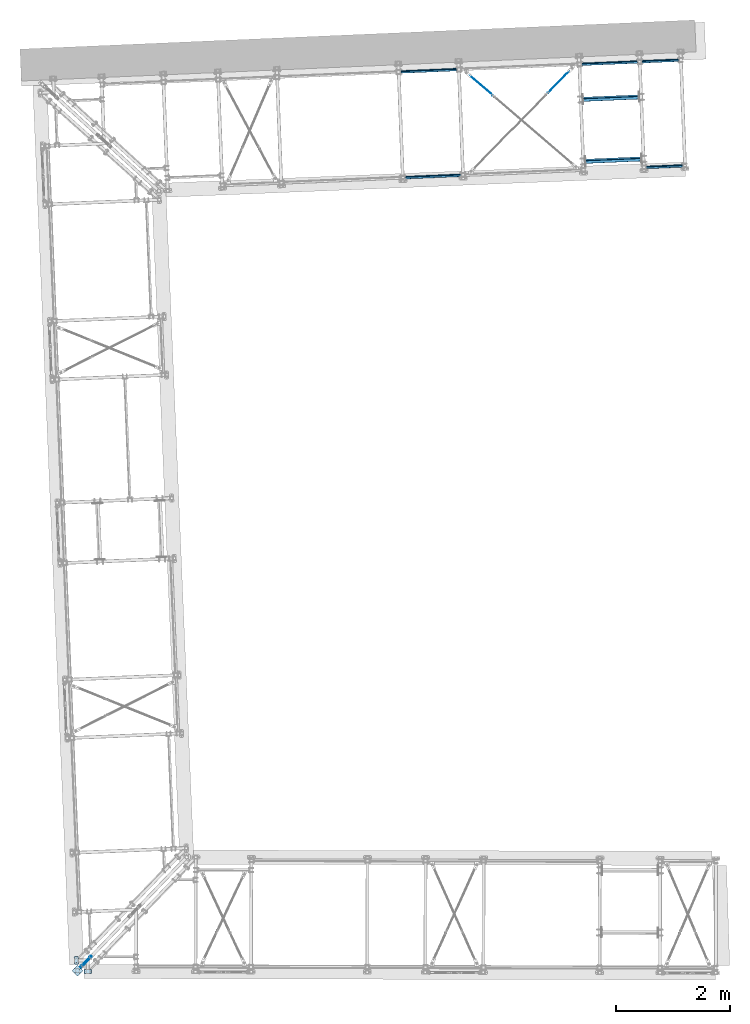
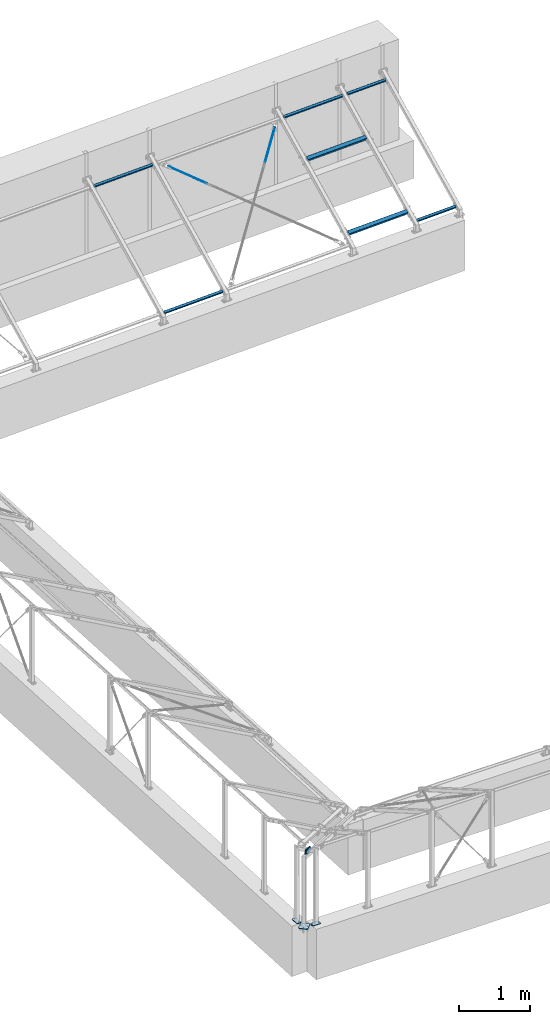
# One storey, part 22 of 288: 9 members, 6 plates, 32 openings.
"""IFC2X3 building model written with IfcOpenShell, lengths in millimetres."""

import ifcopenshell
import ifcopenshell.guid

model = None  # the IFC model being written
_history = None  # IfcOwnerHistory: only IFC2X3 demands one
_inside = {}  # id of a spatial element -> (the spatial element, [elements in it])
_under = {}  # id of a project, library or spatial element -> (it, [spatial elements below it])
_declared = {}  # id of a project -> (the project, [libraries it declares])
_typed = {}  # id of a type object -> (the type object, [elements of that type])
_made_of = {}  # id of a material, layer set ... -> (it, [elements and type objects made of it])


def new_model(schema):
    """Start an empty IFC model of exactly this schema.

    Asked for "IFC4X3", IfcOpenShell would pick the latest addendum, in which some entities
    have other attributes; the version numbers below select the first issue.
    IFC2X3 requires an IfcOwnerHistory on every rooted entity: one is made here for all.
    """
    global model, _history
    if schema == "IFC4X3":
        model = ifcopenshell.file(schema_version=(4, 3, 0, 0))
    else:
        model = ifcopenshell.file(schema=schema)
    _inside.clear()
    _under.clear()
    _declared.clear()
    _typed.clear()
    _made_of.clear()
    _history = None
    if model.schema == "IFC2X3":
        org = make("IfcOrganization", Name="unknown")
        user = make(
            "IfcPersonAndOrganization",
            ThePerson=make("IfcPerson", FamilyName="unknown"),
            TheOrganization=org,
        )
        app = make(
            "IfcApplication",
            ApplicationDeveloper=org,
            Version="unknown",
            ApplicationFullName="unknown",
            ApplicationIdentifier="unknown",
        )
        _history = make(
            "IfcOwnerHistory",
            OwningUser=user,
            OwningApplication=app,
            ChangeAction="ADDED",
            CreationDate=0,
        )
    return model


def make(cls, **values):
    """One entity of the class cls with the attributes given. An attribute that is None is left unset."""
    return model.create_entity(
        cls, **{name: value for name, value in values.items() if value is not None}
    )


def entity(cls, *values):
    """Any entity or typed value of the class cls, its attributes in the order of the schema. None: left unset."""
    e = model.create_entity(cls)
    for i, value in enumerate(values):
        if value is not None:
            e[i] = value
    return e


def rooted(cls, **values):
    """An entity with a GlobalId (a new one), such as an element, a storey or a relation."""
    return make(cls, GlobalId=ifcopenshell.guid.new(), OwnerHistory=_history, **values)


def si_unit(unit_type, name, prefix=None):
    """IfcSIUnit, for example si_unit("LENGTHUNIT", "METRE", prefix="MILLI")."""
    return make("IfcSIUnit", UnitType=unit_type, Prefix=prefix, Name=name)


def converted_unit(unit_type, name, factor, base, dimensions=None, offset=None):
    """IfcConversionBasedUnit, such as the inch: factor (a typed value) times the base unit."""
    return make(
        "IfcConversionBasedUnit"
        if offset is None
        else "IfcConversionBasedUnitWithOffset",
        ConversionOffset=offset,
        Dimensions=None
        if dimensions is None
        else entity("IfcDimensionalExponents", *dimensions),
        UnitType=unit_type,
        Name=name,
        ConversionFactor=make(
            "IfcMeasureWithUnit", ValueComponent=factor, UnitComponent=base
        ),
    )


def assignment(units):
    """IfcUnitAssignment: the units of a project."""
    return None if units is None else make("IfcUnitAssignment", Units=units)


def point(xyz):
    """IfcCartesianPoint."""
    return None if xyz is None else make("IfcCartesianPoint", Coordinates=xyz)


def direction(xyz):
    """IfcDirection."""
    return None if xyz is None else make("IfcDirection", DirectionRatios=xyz)


def frame(location, z_axis=None, x_axis=None):
    """IfcAxis2Placement3D, a coordinate frame: its origin and axes. An axis left out is left unset."""
    return make(
        "IfcAxis2Placement3D",
        Location=point(location),
        Axis=direction(z_axis),
        RefDirection=direction(x_axis),
    )


def frame_2d(location, x_axis=None):
    """IfcAxis2Placement2D, a coordinate frame in the plane: its origin and x axis."""
    return make(
        "IfcAxis2Placement2D", Location=point(location), RefDirection=direction(x_axis)
    )


def origin():
    """The frame at (0, 0, 0) with its axes left unset."""
    return frame((0.0, 0.0, 0.0))


def origin_with_axes():
    """The frame at (0, 0, 0) with the z axis (0, 0, 1) and the x axis (1, 0, 0) written out."""
    return frame((0.0, 0.0, 0.0), z_axis=(0.0, 0.0, 1.0), x_axis=(1.0, 0.0, 0.0))


def origin_2d():
    """The frame at (0, 0) in the plane with its x axis left unset."""
    return frame_2d((0.0, 0.0))


def origin_2d_with_axis():
    """The frame at (0, 0) in the plane with the x axis (1, 0) written out."""
    return frame_2d((0.0, 0.0), x_axis=(1.0, 0.0))


def place(relative_to, where):
    """IfcLocalPlacement: puts the frame where relative to a parent placement (None: the world)."""
    return make(
        "IfcLocalPlacement", PlacementRelTo=relative_to, RelativePlacement=where
    )


def context(
    kind, dimensions, precision=None, world=None, true_north=None, identifier=None
):
    """IfcGeometricRepresentationContext, for example the 3D "Model" context."""
    return make(
        "IfcGeometricRepresentationContext",
        ContextIdentifier=identifier,
        ContextType=kind,
        CoordinateSpaceDimension=dimensions,
        Precision=precision,
        WorldCoordinateSystem=world,
        TrueNorth=true_north,
    )


def project(units=None, contexts=None):
    """IfcProject with its units and contexts."""
    return rooted(
        "IfcProject",
        Name="project",
        RepresentationContexts=contexts,
        UnitsInContext=assignment(units),
    )


def spatial(cls, under=None, at=None, **own):
    """A site, building, storey or space (cls), placed at a placement, below another one or the project."""
    s = rooted(cls, ObjectPlacement=at, **own)
    if under is not None:
        _under.setdefault(under.id(), (under, []))[1].append(s)
    return s


def polyline(points):
    """IfcPolyline through the points."""
    return make("IfcPolyline", Points=[point(p) for p in points])


def circle_curve(where, radius):
    """IfcCircle in the frame where."""
    return make("IfcCircle", Position=where, Radius=radius)


def line_curve(start, along, magnitude):
    """IfcLine from a point along a vector."""
    return make(
        "IfcLine",
        Pnt=point(start),
        Dir=make("IfcVector", Orientation=direction(along), Magnitude=magnitude),
    )


def trimmed(basis, trim1, trim2, sense, master):
    """IfcTrimmedCurve: the piece of a basis curve between two trims."""
    return make(
        "IfcTrimmedCurve",
        BasisCurve=basis,
        Trim1=trim1,
        Trim2=trim2,
        SenseAgreement=sense,
        MasterRepresentation=master,
    )


def segment(curve, same_sense, transition):
    """IfcCompositeCurveSegment."""
    return make(
        "IfcCompositeCurveSegment",
        Transition=transition,
        SameSense=same_sense,
        ParentCurve=curve,
    )


def composite_curve(segments, self_intersect=None):
    """IfcCompositeCurve: segments joined end to end."""
    return make("IfcCompositeCurve", Segments=segments, SelfIntersect=self_intersect)


def profile(cls, at=None, kind="AREA", **sizes):
    """A parametric profile (cls). Its sizes go by their IFC names, for example OverallWidth=200.0."""
    return make(cls, ProfileType=kind, Position=at, **sizes)


def hollow_rectangle(**sizes):
    """IfcRectangleHollowProfileDef."""
    return profile("IfcRectangleHollowProfileDef", **sizes)


def circle(**sizes):
    """IfcCircleProfileDef."""
    return profile("IfcCircleProfileDef", **sizes)


def outline(outer, holes=None, kind="AREA"):
    """IfcArbitraryClosedProfileDef: a profile drawn as a closed curve; with holes, ...WithVoids."""
    if holes is None:
        return make("IfcArbitraryClosedProfileDef", ProfileType=kind, OuterCurve=outer)
    return make(
        "IfcArbitraryProfileDefWithVoids",
        ProfileType=kind,
        OuterCurve=outer,
        InnerCurves=holes,
    )


def extrude(swept, where, along, depth):
    """IfcExtrudedAreaSolid: the profile swept, set in the frame where, extruded along a direction by depth."""
    return make(
        "IfcExtrudedAreaSolid",
        SweptArea=swept,
        Position=where,
        ExtrudedDirection=direction(along),
        Depth=depth,
    )


def clip(a, b, op="DIFFERENCE"):
    """IfcBooleanClippingResult: the solid a cut by the half space b."""
    return make(
        "IfcBooleanClippingResult", Operator=op, FirstOperand=a, SecondOperand=b
    )


def halfspace(plane, agree):
    """IfcHalfSpaceSolid: all space on one side of the plane z = 0 of the frame plane."""
    return make(
        "IfcHalfSpaceSolid",
        BaseSurface=make("IfcPlane", Position=plane),
        AgreementFlag=agree,
    )


def shape(context_of_items, identifier, shape_type, items):
    """IfcShapeRepresentation: the items that make up one representation, for example the "Body"."""
    return make(
        "IfcShapeRepresentation",
        ContextOfItems=context_of_items,
        RepresentationIdentifier=identifier,
        RepresentationType=shape_type,
        Items=items,
    )


def material(Name=None, Category=None):
    """IfcMaterial."""
    return make("IfcMaterial", Name=Name, Category=Category)


def layer(
    of_material, thickness, ventilated=None, Name=None, Category=None, Priority=None
):
    """IfcMaterialLayer: one layer of a wall or slab, of a material (None: an air gap)."""
    return make(
        "IfcMaterialLayer",
        Material=of_material,
        LayerThickness=thickness,
        IsVentilated=ventilated,
        Name=Name,
        Category=Category,
        Priority=Priority,
    )


def layer_set(layers, Name=None):
    """IfcMaterialLayerSet."""
    return make("IfcMaterialLayerSet", MaterialLayers=layers, LayerSetName=Name)


def made_of(thing, what):
    """Note that an element or type object is made of a material, layer set ...; save() writes the relation."""
    if what is not None:
        _made_of.setdefault(what.id(), (what, []))[1].append(thing)
    return thing


def element(
    cls,
    number,
    at=None,
    inside=None,
    cuts=None,
    type_object=None,
    material=None,
    context=None,
    identifier="Body",
    shape_type=None,
    held_by="IfcProductDefinitionShape",
    body=None,
    shapes=None,
    **own,
):
    """One element of the class cls, such as IfcWall. Its Tag is "e" and its number.

    at: its placement. inside: the storey or other place that contains it. cuts: it is an
    opening in that element (IfcRelVoidsElement). A single representation is given by context,
    identifier, shape_type and body (its items); several are given by shapes. held_by: the class
    of the entity that holds the representations. save() writes the other relations.
    """
    e = rooted(cls, Tag="e%d" % number, ObjectPlacement=at, **own)
    if body is not None:
        shapes = [shape(context, identifier, shape_type, body)]
    if shapes is not None:
        e.Representation = make(held_by, Representations=shapes)
    if inside is not None:
        _inside.setdefault(inside.id(), (inside, []))[1].append(e)
    if cuts is not None:
        rooted(
            "IfcRelVoidsElement", RelatingBuildingElement=cuts, RelatedOpeningElement=e
        )
    if type_object is not None:
        _typed.setdefault(type_object.id(), (type_object, []))[1].append(e)
    return made_of(e, material)


def aggregate(whole, parts):
    """IfcRelAggregates: a whole, such as a stair, and the parts it consists of."""
    return rooted("IfcRelAggregates", RelatingObject=whole, RelatedObjects=parts)


def save(model, path):
    """Write the relations noted so far, then the file.

    IfcRelAggregates (storeys below a building ...), IfcRelContainedInSpatialStructure (elements
    in a storey), IfcRelDefinesByType, IfcRelAssociatesMaterial and IfcRelDeclares: one each for
    every whole, place, type object, material and project.
    """
    for whole, parts in _under.values():
        aggregate(whole, parts)
    for where, things in _inside.values():
        rooted(
            "IfcRelContainedInSpatialStructure",
            RelatedElements=things,
            RelatingStructure=where,
        )
    for kind, things in _typed.values():
        rooted("IfcRelDefinesByType", RelatedObjects=things, RelatingType=kind)
    for what, things in _made_of.values():
        rooted("IfcRelAssociatesMaterial", RelatedObjects=things, RelatingMaterial=what)
    for by, libraries in _declared.values():
        rooted("IfcRelDeclares", RelatingContext=by, RelatedDefinitions=libraries)
    model.write(path)


model = new_model("IFC2X3")

# Units and contexts
model_context = context("Model", 3, precision=1e-09, world=origin_with_axes())
ifc_project = project(units=[si_unit("LENGTHUNIT", "METRE", prefix="MILLI"), si_unit("AREAUNIT", "SQUARE_METRE"), si_unit("VOLUMEUNIT", "CUBIC_METRE"), converted_unit("PLANEANGLEUNIT", "DEGREE", entity("IfcPlaneAngleMeasure", 0.01745329), si_unit("PLANEANGLEUNIT", "RADIAN"), dimensions=[0, 0, 0, 0, 0, 0, 0])], contexts=[model_context])

# Site, building, storey
site_placement = place(None, origin_with_axes())
site = spatial("IfcSite", under=ifc_project, at=site_placement, Name="Remont ?wietlik?w nad MC w NCPP w Opolu", CompositionType="ELEMENT")
building_placement = place(site_placement, origin_with_axes())
building = spatial("IfcBuilding", under=site, at=building_placement, Name="Konstrukcja 1", CompositionType="ELEMENT")
storey_placement = place(building_placement, origin_with_axes())
storey = spatial("IfcBuildingStorey", under=building, at=storey_placement, Name="Default Storey", CompositionType="ELEMENT", Elevation=0.0)

# Members
ifc_material_1 = material(Name="S235")
member_1_placement = place(None, frame((6619.907638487, 13850.49178117, 139.594904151), z_axis=(0.999102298, 0.042361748, -0.000284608), x_axis=(-0.036464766, 0.86340262, 0.503196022)))
element("IfcMember", 1, at=member_1_placement, inside=storey, material=ifc_material_1, Name="TubeBracing", ObjectType="TubeBracing", context=model_context, shape_type="SweptSolid", body=[
    extrude(hollow_rectangle(XDim=40.0, YDim=40.0, WallThickness=3.0, InnerFilletRadius=3.0, OuterFilletRadius=6.0, at=origin_2d()), origin(), (0.0, 0.0, -1.0), 979.588389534),
])
member_2_placement = place(None, frame((10584.092730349, 14018.572479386, 138.465652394), z_axis=(0.999102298, 0.042361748, -0.000284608), x_axis=(-0.036464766, 0.86340262, 0.503196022)))
element("IfcMember", 2, at=member_2_placement, inside=storey, material=ifc_material_1, Name="TubeBracing", ObjectType="TubeBracing", context=model_context, shape_type="Clipping", body=[
    clip(extrude(hollow_rectangle(XDim=40.0, YDim=40.0, WallThickness=3.0, InnerFilletRadius=3.0, OuterFilletRadius=6.0, at=origin_2d()), origin(), (0.0, 0.0, -1.0), 712.419778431), halfspace(frame((-11814.216524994, 6718.996986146, -107.6257055), z_axis=(0.002424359, -0.001741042, -0.999995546), x_axis=(-0.864168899, 0.50319309, -0.002971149)), True)),
])
for number, where, z_axis, x_axis, name in (
    (3, (9745.49976522, 15223.402642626, 862.544823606), (0.999102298, 0.042361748, -0.000284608), (-0.036464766, 0.86340262, 0.503196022), "TubeBracing"),
    (4, (9788.538517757, 14135.397692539, 228.516061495), (0.999102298, 0.042361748, -0.000284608), (-0.036464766, 0.86340262, 0.503196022), "TubeBracing"),
):
    element("IfcMember", number, at=place(None, frame(where, z_axis=z_axis, x_axis=x_axis)), inside=storey, material=ifc_material_1, Name=name, ObjectType="TubeBracing", context=model_context, shape_type="SweptSolid", body=[
        extrude(hollow_rectangle(XDim=60.0, YDim=60.0, WallThickness=3.0, InnerFilletRadius=3.0, OuterFilletRadius=6.0, at=origin_2d()), origin(), (0.0, 0.0, -1.0), 981.999809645),
    ])
member_3_placement = place(None, frame((10510.976387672, 15873.428619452, 1221.602923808), z_axis=(0.999102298, 0.042361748, -0.000284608), x_axis=(-0.036464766, 0.86340262, 0.503196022)))
element("IfcMember", 5, at=member_3_placement, inside=storey, material=ifc_material_1, Name="TubeBracing", ObjectType="TubeBracing", context=model_context, shape_type="Clipping", body=[
    clip(extrude(hollow_rectangle(XDim=40.0, YDim=40.0, WallThickness=3.0, InnerFilletRadius=3.0, OuterFilletRadius=6.0, at=origin_2d()), origin(), (0.0, 0.0, -1.0), 712.419778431), halfspace(frame((-13963.400734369, 6717.055464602, -112.832741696), z_axis=(0.002424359, -0.001741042, -0.999995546), x_axis=(-0.864168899, 0.50319309, -0.002971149)), True)),
])
member_4_placement = place(None, frame((9721.266170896, 15839.945055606, 1221.827883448), z_axis=(0.999102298, 0.042361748, -0.000284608), x_axis=(-0.036464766, 0.86340262, 0.503196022)))
element("IfcMember", 6, at=member_4_placement, inside=storey, material=ifc_material_1, Name="TubeBracing", ObjectType="TubeBracing", context=model_context, shape_type="SweptSolid", body=[
    extrude(hollow_rectangle(XDim=40.0, YDim=40.0, WallThickness=3.0, InnerFilletRadius=3.0, OuterFilletRadius=6.0, at=origin_2d()), origin(), (0.0, 0.0, -1.0), 981.999809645),
])
member_5_placement = place(None, frame((6546.79129581, 15705.347921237, 1222.732175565), z_axis=(0.999102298, 0.042361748, -0.000284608), x_axis=(-0.036464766, 0.86340262, 0.503196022)))
element("IfcMember", 7, at=member_5_placement, inside=storey, material=ifc_material_1, Name="TubeBracing", ObjectType="TubeBracing", context=model_context, shape_type="SweptSolid", body=[
    extrude(hollow_rectangle(XDim=40.0, YDim=40.0, WallThickness=3.0, InnerFilletRadius=3.0, OuterFilletRadius=6.0, at=origin_2d()), origin(), (0.0, 0.0, -1.0), 979.588389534),
])
ifc_material_2 = material(Name="S275J2")
member_6_placement = place(None, frame((7203.429609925, 15232.148272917, 939.719944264), z_axis=(0.702707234, -0.60687595, -0.371354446), x_axis=(0.021594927, -0.503513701, 0.863717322)))
element("IfcMember", 8, at=member_6_placement, inside=storey, material=ifc_material_2, Name="Tension_Rod#1", ObjectType="Tension_Rod#1", context=model_context, shape_type="Clipping", body=[
    clip(clip(extrude(circle(Radius=6.0, at=origin_2d()), origin(), (0.0, 0.0, -1.0), 761.970562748), halfspace(frame((6702.385426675, 14810.065897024, -33.486281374), z_axis=(0.0, 0.0, -1.0), x_axis=(0.366958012, 0.930237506, 0.0)), True)), halfspace(frame((6702.385426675, 14810.065897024, -633.484281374), z_axis=(0.0, 0.0, 1.0), x_axis=(-0.366958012, -0.930237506, 0.0)), True)),
])
member_7_placement = place(None, frame((8125.760584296, 15271.254931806, 939.457205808), z_axis=(-0.649025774, -0.664189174, -0.370969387), x_axis=(-0.021594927, 0.503513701, -0.863717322)))
element("IfcMember", 9, at=member_7_placement, inside=storey, material=ifc_material_2, Name="Tension_Rod#1", ObjectType="Tension_Rod#1", context=model_context, shape_type="Clipping", body=[
    clip(clip(extrude(circle(Radius=6.0, at=origin_2d()), origin(), (0.0, 0.0, -1.0), 761.970562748), halfspace(frame((-6702.385426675, 2579.51019077, -33.486281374), z_axis=(0.0, 0.0, -1.0), x_axis=(0.367348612, -0.930083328, 0.0)), True)), halfspace(frame((-6702.385426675, 2579.51019077, -633.484281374), z_axis=(0.0, 0.0, 1.0), x_axis=(-0.367348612, 0.930083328, 0.0)), True)),
])

# Plate, openings
ifc_layer_1 = layer(ifc_material_1, 8.0)
ifc_layer_set_1 = layer_set([ifc_layer_1], Name="S235")
plate_1_placement = place(None, frame((-27.630696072, -36.064919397, 1186.313285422), z_axis=(0.72093759, -0.692999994, 0.0), x_axis=(0.639589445, 0.665373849, -0.384971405)))
plate_1 = element("IfcPlate", 10, at=plate_1_placement, inside=storey, material=ifc_layer_set_1, Name="Plate", ObjectType="Plate", context=model_context, shape_type="SweptSolid", body=[
    extrude(outline(polyline([(-30.0, 0.0), (239.414016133, 0.0), (239.414016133, 64.710444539), (-30.0, 64.710444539), (-30.0, 0.0)])), origin_with_axes(), (0.0, 0.0, 1.0), 8.0),
])
opening_1_placement = place(plate_1_placement, frame((209.414016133, 32.810088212, 8.5), z_axis=(0.0, 0.0, -1.0), x_axis=(0.0, -1.0, 0.0)))
element("IfcOpeningElement", 11, at=opening_1_placement, cuts=plate_1, ObjectType="Opening", context=model_context, shape_type="SweptSolid", body=[
    extrude(circle(Radius=9.001, at=origin_2d_with_axis()), origin(), (0.0, 0.0, 1.0), 9.0),
])
opening_2_placement = place(plate_1_placement, frame((-9.001, 32.355222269, 8.5), z_axis=(0.0, 0.0, -1.0), x_axis=(0.0, -1.0, 0.0)))
element("IfcOpeningElement", 12, at=opening_2_placement, cuts=plate_1, ObjectType="Opening", context=model_context, shape_type="SweptSolid", body=[
    extrude(circle(Radius=9.001, at=origin_2d_with_axis()), origin(), (0.0, 0.0, 1.0), 9.0),
])
opening_3_placement = place(plate_1_placement, frame((0.0, 0.0, -0.01), z_axis=(0.0, 0.0, 1.0), x_axis=(1.0, 0.0, 0.0)))
element("IfcOpeningElement", 13, at=opening_3_placement, cuts=plate_1, ObjectType="Opening", context=model_context, shape_type="SweptSolid", body=[
    extrude(outline(composite_curve([segment(trimmed(line_curve((-30.0, 64.710444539), (0.0, -1.0), 10.0), [point((-30.0, 64.710444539))], [point((-30.0, 54.710444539))], True, "CARTESIAN"), True, "CONTINUOUS"), segment(trimmed(circle_curve(frame_2d((-20.0, 54.710444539), x_axis=(-1.0, 0.0)), 10.0), [point((-30.0, 54.710444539))], [point((-20.0, 64.710444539))], False, "CARTESIAN"), True, "CONTINUOUS"), segment(trimmed(line_curve((-20.0, 64.710444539), (-1.0, 0.0), 10.0), [point((-20.0, 64.710444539))], [point((-30.0, 64.710444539))], True, "CARTESIAN"), True, "CONTINUOUS")], self_intersect=False)), origin(), (0.0, 0.0, 1.0), 8.02),
])
opening_4_placement = place(plate_1_placement, frame((0.0, 0.0, -0.01), z_axis=(0.0, 0.0, 1.0), x_axis=(1.0, 0.0, 0.0)))
element("IfcOpeningElement", 14, at=opening_4_placement, cuts=plate_1, ObjectType="Opening", context=model_context, shape_type="SweptSolid", body=[
    extrude(outline(composite_curve([segment(trimmed(line_curve((239.414016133, 64.710444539), (-1.0, 0.0), 10.0), [point((239.414016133, 64.710444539))], [point((229.414016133, 64.710444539))], True, "CARTESIAN"), True, "CONTINUOUS"), segment(trimmed(circle_curve(frame_2d((229.414016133, 54.710444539), x_axis=(-1.0, 0.0)), 10.0), [point((229.414016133, 64.710444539))], [point((239.414016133, 54.710444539))], False, "CARTESIAN"), True, "CONTINUOUS"), segment(trimmed(line_curve((239.414016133, 54.710444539), (0.0, 1.0), 10.0), [point((239.414016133, 54.710444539))], [point((239.414016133, 64.710444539))], True, "CARTESIAN"), True, "CONTINUOUS")], self_intersect=False)), origin(), (0.0, 0.0, 1.0), 8.02),
])

plate_2_placement = place(None, frame((-40.607572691, -23.590919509, 1186.313285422), z_axis=(0.72093759, -0.692999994, 0.0), x_axis=(0.639589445, 0.665373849, -0.384971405)))
plate_2 = element("IfcPlate", 15, at=plate_2_placement, inside=storey, material=ifc_layer_set_1, Name="Plate", ObjectType="Plate", context=model_context, shape_type="SweptSolid", body=[
    extrude(outline(polyline([(-30.0, 0.0), (239.414016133, 0.0), (239.414016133, 64.743108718), (-30.0, 64.743108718), (-30.0, 0.0)])), origin_with_axes(), (0.0, 0.0, 1.0), 8.0),
])
opening_5_placement = place(plate_2_placement, frame((209.414016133, 32.810088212, 8.5), z_axis=(0.0, 0.0, -1.0), x_axis=(0.0, -1.0, 0.0)))
element("IfcOpeningElement", 16, at=opening_5_placement, cuts=plate_2, ObjectType="Opening", context=model_context, shape_type="SweptSolid", body=[
    extrude(circle(Radius=9.001, at=origin_2d_with_axis()), origin(), (0.0, 0.0, 1.0), 9.0),
])
opening_6_placement = place(plate_2_placement, frame((-9.001, 32.355222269, 8.5), z_axis=(0.0, 0.0, -1.0), x_axis=(0.0, -1.0, 0.0)))
element("IfcOpeningElement", 17, at=opening_6_placement, cuts=plate_2, ObjectType="Opening", context=model_context, shape_type="SweptSolid", body=[
    extrude(circle(Radius=9.001, at=origin_2d_with_axis()), origin(), (0.0, 0.0, 1.0), 9.0),
])
opening_7_placement = place(plate_2_placement, frame((0.0, 0.0, -0.01), z_axis=(0.0, 0.0, 1.0), x_axis=(1.0, 0.0, 0.0)))
element("IfcOpeningElement", 18, at=opening_7_placement, cuts=plate_2, ObjectType="Opening", context=model_context, shape_type="SweptSolid", body=[
    extrude(outline(composite_curve([segment(trimmed(line_curve((-30.0, 64.743108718), (0.0, -1.0), 10.0), [point((-30.0, 64.743108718))], [point((-30.0, 54.743108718))], True, "CARTESIAN"), True, "CONTINUOUS"), segment(trimmed(circle_curve(frame_2d((-20.0, 54.743108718), x_axis=(-1.0, 0.0)), 10.0), [point((-30.0, 54.743108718))], [point((-20.0, 64.743108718))], False, "CARTESIAN"), True, "CONTINUOUS"), segment(trimmed(line_curve((-20.0, 64.743108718), (-1.0, 0.0), 10.0), [point((-20.0, 64.743108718))], [point((-30.0, 64.743108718))], True, "CARTESIAN"), True, "CONTINUOUS")], self_intersect=False)), origin(), (0.0, 0.0, 1.0), 8.02),
])
opening_8_placement = place(plate_2_placement, frame((0.0, 0.0, -0.01), z_axis=(0.0, 0.0, 1.0), x_axis=(1.0, 0.0, 0.0)))
element("IfcOpeningElement", 19, at=opening_8_placement, cuts=plate_2, ObjectType="Opening", context=model_context, shape_type="SweptSolid", body=[
    extrude(outline(composite_curve([segment(trimmed(line_curve((239.414016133, 64.743108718), (-1.0, 0.0), 10.0), [point((239.414016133, 64.743108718))], [point((229.414016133, 64.743108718))], True, "CARTESIAN"), True, "CONTINUOUS"), segment(trimmed(circle_curve(frame_2d((229.414016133, 54.743108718), x_axis=(-1.0, 0.0)), 10.0), [point((229.414016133, 64.743108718))], [point((239.414016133, 54.743108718))], False, "CARTESIAN"), True, "CONTINUOUS"), segment(trimmed(line_curve((239.414016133, 54.743108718), (0.0, 1.0), 10.0), [point((239.414016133, 54.743108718))], [point((239.414016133, 64.743108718))], True, "CARTESIAN"), True, "CONTINUOUS")], self_intersect=False)), origin(), (0.0, 0.0, 1.0), 8.02),
])

plate_3_placement = place(None, frame((-53.306817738, -49.789134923, 1197.86242757), z_axis=(0.72093759, -0.692999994, 0.0), x_axis=(0.639589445, 0.665373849, -0.384971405)))
plate_3 = element("IfcPlate", 20, at=plate_3_placement, inside=storey, material=ifc_layer_set_1, Name="Plate", ObjectType="Plate", context=model_context, shape_type="SweptSolid", body=[
    extrude(outline(polyline([(0.0, 0.0), (270.0, 0.0), (270.0, 64.7), (0.0, 64.7), (0.0, 0.0)])), origin_with_axes(), (0.0, 0.0, 1.0), 8.0),
])
opening_9_placement = place(plate_3_placement, frame((239.414016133, 32.810088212, 8.5), z_axis=(0.0, 0.0, -1.0), x_axis=(0.0, -1.0, 0.0)))
element("IfcOpeningElement", 21, at=opening_9_placement, cuts=plate_3, ObjectType="Opening", context=model_context, shape_type="SweptSolid", body=[
    extrude(circle(Radius=9.001, at=origin_2d_with_axis()), origin(), (0.0, 0.0, 1.0), 9.0),
])
opening_10_placement = place(plate_3_placement, frame((20.999, 32.355222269, 8.5), z_axis=(0.0, 0.0, -1.0), x_axis=(0.0, -1.0, 0.0)))
element("IfcOpeningElement", 22, at=opening_10_placement, cuts=plate_3, ObjectType="Opening", context=model_context, shape_type="SweptSolid", body=[
    extrude(circle(Radius=9.001, at=origin_2d_with_axis()), origin(), (0.0, 0.0, 1.0), 9.0),
])
opening_11_placement = place(plate_3_placement, frame((0.0, 0.0, -0.01), z_axis=(0.0, 0.0, 1.0), x_axis=(1.0, 0.0, 0.0)))
element("IfcOpeningElement", 23, at=opening_11_placement, cuts=plate_3, ObjectType="Opening", context=model_context, shape_type="SweptSolid", body=[
    extrude(outline(composite_curve([segment(trimmed(line_curve((0.0, 64.7), (0.0, -1.0), 10.0), [point((0.0, 64.7))], [point((0.0, 54.7))], True, "CARTESIAN"), True, "CONTINUOUS"), segment(trimmed(circle_curve(frame_2d((10.0, 54.7), x_axis=(-1.0, 0.0)), 10.0), [point((0.0, 54.7))], [point((10.0, 64.7))], False, "CARTESIAN"), True, "CONTINUOUS"), segment(trimmed(line_curve((10.0, 64.7), (-1.0, 0.0), 10.0), [point((10.0, 64.7))], [point((0.0, 64.7))], True, "CARTESIAN"), True, "CONTINUOUS")], self_intersect=False)), origin(), (0.0, 0.0, 1.0), 8.02),
])
opening_12_placement = place(plate_3_placement, frame((0.0, 0.0, -0.01), z_axis=(0.0, 0.0, 1.0), x_axis=(1.0, 0.0, 0.0)))
element("IfcOpeningElement", 24, at=opening_12_placement, cuts=plate_3, ObjectType="Opening", context=model_context, shape_type="SweptSolid", body=[
    extrude(outline(composite_curve([segment(trimmed(line_curve((270.0, 64.7), (-1.0, 0.0), 10.0), [point((270.0, 64.7))], [point((260.0, 64.7))], True, "CARTESIAN"), True, "CONTINUOUS"), segment(trimmed(circle_curve(frame_2d((260.0, 54.7), x_axis=(-1.0, 0.0)), 10.0), [point((260.0, 64.7))], [point((270.0, 54.7))], False, "CARTESIAN"), True, "CONTINUOUS"), segment(trimmed(line_curve((270.0, 54.7), (0.0, 1.0), 10.0), [point((270.0, 54.7))], [point((270.0, 64.7))], True, "CARTESIAN"), True, "CONTINUOUS")], self_intersect=False)), origin(), (0.0, 0.0, 1.0), 8.02),
])

ifc_layer_2 = layer(ifc_material_1, 10.0)
ifc_layer_set_2 = layer_set([ifc_layer_2], Name="S235")
plate_4_placement = place(None, frame((141.642073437, -90.256775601, 9.999000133), z_axis=(0.0, 0.0, -1.0), x_axis=(2.44e-07, -1.0, 0.0)))
plate_4 = element("IfcPlate", 25, at=plate_4_placement, inside=storey, material=ifc_layer_set_2, Name="Baseplate", ObjectType="Baseplate", context=model_context, shape_type="SweptSolid", body=[
    extrude(outline(polyline([(0.0, 0.0), (70.0, 0.0), (70.0, 140.0), (0.0, 140.0), (0.0, 0.0)])), origin_with_axes(), (0.0, 0.0, 1.0), 10.0),
])
opening_13_placement = place(plate_4_placement, frame((0.0, 0.0, -0.01), z_axis=(0.0, 0.0, 1.0), x_axis=(1.0, 0.0, 0.0)))
element("IfcOpeningElement", 26, at=opening_13_placement, cuts=plate_4, ObjectType="Opening", context=model_context, shape_type="SweptSolid", body=[
    extrude(outline(composite_curve([segment(trimmed(line_curve((70.0, 0.0), (0.0, 1.0), 10.0), [point((70.0, 0.0))], [point((70.0, 10.0))], True, "CARTESIAN"), True, "CONTINUOUS"), segment(trimmed(circle_curve(frame_2d((60.0, 10.0), x_axis=(-1.0, 0.0)), 10.0), [point((70.0, 10.0))], [point((60.0, 0.0))], False, "CARTESIAN"), True, "CONTINUOUS"), segment(trimmed(line_curve((60.0, 0.0), (1.0, 0.0), 10.0), [point((60.0, 0.0))], [point((70.0, 0.0))], True, "CARTESIAN"), True, "CONTINUOUS")], self_intersect=False)), origin(), (0.0, 0.0, 1.0), 10.02),
])
opening_14_placement = place(plate_4_placement, frame((0.0, 0.0, -0.01), z_axis=(0.0, 0.0, 1.0), x_axis=(1.0, 0.0, 0.0)))
element("IfcOpeningElement", 27, at=opening_14_placement, cuts=plate_4, ObjectType="Opening", context=model_context, shape_type="SweptSolid", body=[
    extrude(outline(composite_curve([segment(trimmed(line_curve((0.0, 0.0), (1.0, 0.0), 10.0), [point((0.0, 0.0))], [point((10.0, 0.0))], True, "CARTESIAN"), True, "CONTINUOUS"), segment(trimmed(circle_curve(frame_2d((10.0, 10.0), x_axis=(-1.0, 0.0)), 10.0), [point((10.0, 0.0))], [point((0.0, 10.0))], False, "CARTESIAN"), True, "CONTINUOUS"), segment(trimmed(line_curve((0.0, 10.0), (0.0, -1.0), 10.0), [point((0.0, 10.0))], [point((0.0, 0.0))], True, "CARTESIAN"), True, "CONTINUOUS")], self_intersect=False)), origin(), (0.0, 0.0, 1.0), 10.02),
])
opening_15_placement = place(plate_4_placement, frame((0.0, 0.0, -0.01), z_axis=(0.0, 0.0, 1.0), x_axis=(1.0, 0.0, 0.0)))
element("IfcOpeningElement", 28, at=opening_15_placement, cuts=plate_4, ObjectType="Opening", context=model_context, shape_type="SweptSolid", body=[
    extrude(outline(composite_curve([segment(trimmed(line_curve((70.0, 140.0), (-1.0, 0.0), 10.0), [point((70.0, 140.0))], [point((60.0, 140.0))], True, "CARTESIAN"), True, "CONTINUOUS"), segment(trimmed(circle_curve(frame_2d((60.0, 130.0), x_axis=(-1.0, 0.0)), 10.0), [point((60.0, 140.0))], [point((70.0, 130.0))], False, "CARTESIAN"), True, "CONTINUOUS"), segment(trimmed(line_curve((70.0, 130.0), (0.0, 1.0), 10.0), [point((70.0, 130.0))], [point((70.0, 140.0))], True, "CARTESIAN"), True, "CONTINUOUS")], self_intersect=False)), origin(), (0.0, 0.0, 1.0), 10.02),
])
opening_16_placement = place(plate_4_placement, frame((0.0, 0.0, -0.01), z_axis=(0.0, 0.0, 1.0), x_axis=(1.0, 0.0, 0.0)))
element("IfcOpeningElement", 29, at=opening_16_placement, cuts=plate_4, ObjectType="Opening", context=model_context, shape_type="SweptSolid", body=[
    extrude(outline(composite_curve([segment(trimmed(line_curve((0.0, 140.0), (0.0, -1.0), 10.0), [point((0.0, 140.0))], [point((0.0, 130.0))], True, "CARTESIAN"), True, "CONTINUOUS"), segment(trimmed(circle_curve(frame_2d((10.0, 130.0), x_axis=(-1.0, 0.0)), 10.0), [point((0.0, 130.0))], [point((10.0, 140.0))], False, "CARTESIAN"), True, "CONTINUOUS"), segment(trimmed(line_curve((10.0, 140.0), (-1.0, 0.0), 10.0), [point((10.0, 140.0))], [point((0.0, 140.0))], True, "CARTESIAN"), True, "CONTINUOUS")], self_intersect=False)), origin(), (0.0, 0.0, 1.0), 10.02),
])
opening_17_placement = place(plate_4_placement, frame((35.0, 20.0, 10.5), z_axis=(0.0, 0.0, -1.0), x_axis=(1.0, 0.0, 0.0)))
element("IfcOpeningElement", 30, at=opening_17_placement, cuts=plate_4, ObjectType="Opening", context=model_context, shape_type="SweptSolid", body=[
    extrude(circle(Radius=6.001, at=origin_2d_with_axis()), origin(), (0.0, 0.0, 1.0), 11.0),
])
opening_18_placement = place(plate_4_placement, frame((35.0, 120.0, 10.5), z_axis=(0.0, 0.0, -1.0), x_axis=(1.0, 0.0, 0.0)))
element("IfcOpeningElement", 31, at=opening_18_placement, cuts=plate_4, ObjectType="Opening", context=model_context, shape_type="SweptSolid", body=[
    extrude(circle(Radius=6.001, at=origin_2d_with_axis()), origin(), (0.0, 0.0, 1.0), 11.0),
])

plate_5_placement = place(None, frame((-90.000982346, -1.852496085, 9.999999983), z_axis=(0.0, 0.0, -1.0), x_axis=(-0.999131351, -0.041671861, 0.0)))
plate_5 = element("IfcPlate", 32, at=plate_5_placement, inside=storey, material=ifc_layer_set_2, Name="Baseplate", ObjectType="Baseplate", context=model_context, shape_type="SweptSolid", body=[
    extrude(outline(polyline([(0.0, 0.0), (70.0, 0.0), (70.0, 140.0), (0.0, 140.0), (0.0, 0.0)])), origin_with_axes(), (0.0, 0.0, 1.0), 10.0),
])
opening_19_placement = place(plate_5_placement, frame((0.0, 0.0, -0.01), z_axis=(0.0, 0.0, 1.0), x_axis=(1.0, 0.0, 0.0)))
element("IfcOpeningElement", 33, at=opening_19_placement, cuts=plate_5, ObjectType="Opening", context=model_context, shape_type="SweptSolid", body=[
    extrude(outline(composite_curve([segment(trimmed(line_curve((70.0, 0.0), (0.0, 1.0), 10.0), [point((70.0, 0.0))], [point((70.0, 10.0))], True, "CARTESIAN"), True, "CONTINUOUS"), segment(trimmed(circle_curve(frame_2d((60.0, 10.0), x_axis=(-1.0, 0.0)), 10.0), [point((70.0, 10.0))], [point((60.0, 0.0))], False, "CARTESIAN"), True, "CONTINUOUS"), segment(trimmed(line_curve((60.0, 0.0), (1.0, 0.0), 10.0), [point((60.0, 0.0))], [point((70.0, 0.0))], True, "CARTESIAN"), True, "CONTINUOUS")], self_intersect=False)), origin(), (0.0, 0.0, 1.0), 10.02),
])
opening_20_placement = place(plate_5_placement, frame((0.0, 0.0, -0.01), z_axis=(0.0, 0.0, 1.0), x_axis=(1.0, 0.0, 0.0)))
element("IfcOpeningElement", 34, at=opening_20_placement, cuts=plate_5, ObjectType="Opening", context=model_context, shape_type="SweptSolid", body=[
    extrude(outline(composite_curve([segment(trimmed(line_curve((0.0, 0.0), (1.0, 0.0), 10.0), [point((0.0, 0.0))], [point((10.0, 0.0))], True, "CARTESIAN"), True, "CONTINUOUS"), segment(trimmed(circle_curve(frame_2d((10.0, 10.0), x_axis=(-1.0, 0.0)), 10.0), [point((10.0, 0.0))], [point((0.0, 10.0))], False, "CARTESIAN"), True, "CONTINUOUS"), segment(trimmed(line_curve((0.0, 10.0), (0.0, -1.0), 10.0), [point((0.0, 10.0))], [point((0.0, 0.0))], True, "CARTESIAN"), True, "CONTINUOUS")], self_intersect=False)), origin(), (0.0, 0.0, 1.0), 10.02),
])
opening_21_placement = place(plate_5_placement, frame((0.0, 0.0, -0.01), z_axis=(0.0, 0.0, 1.0), x_axis=(1.0, 0.0, 0.0)))
element("IfcOpeningElement", 35, at=opening_21_placement, cuts=plate_5, ObjectType="Opening", context=model_context, shape_type="SweptSolid", body=[
    extrude(outline(composite_curve([segment(trimmed(line_curve((70.0, 140.0), (-1.0, 0.0), 10.0), [point((70.0, 140.0))], [point((60.0, 140.0))], True, "CARTESIAN"), True, "CONTINUOUS"), segment(trimmed(circle_curve(frame_2d((60.0, 130.0), x_axis=(-1.0, 0.0)), 10.0), [point((60.0, 140.0))], [point((70.0, 130.0))], False, "CARTESIAN"), True, "CONTINUOUS"), segment(trimmed(line_curve((70.0, 130.0), (0.0, 1.0), 10.0), [point((70.0, 130.0))], [point((70.0, 140.0))], True, "CARTESIAN"), True, "CONTINUOUS")], self_intersect=False)), origin(), (0.0, 0.0, 1.0), 10.02),
])
opening_22_placement = place(plate_5_placement, frame((0.0, 0.0, -0.01), z_axis=(0.0, 0.0, 1.0), x_axis=(1.0, 0.0, 0.0)))
element("IfcOpeningElement", 36, at=opening_22_placement, cuts=plate_5, ObjectType="Opening", context=model_context, shape_type="SweptSolid", body=[
    extrude(outline(composite_curve([segment(trimmed(line_curve((0.0, 140.0), (0.0, -1.0), 10.0), [point((0.0, 140.0))], [point((0.0, 130.0))], True, "CARTESIAN"), True, "CONTINUOUS"), segment(trimmed(circle_curve(frame_2d((10.0, 130.0), x_axis=(-1.0, 0.0)), 10.0), [point((0.0, 130.0))], [point((10.0, 140.0))], False, "CARTESIAN"), True, "CONTINUOUS"), segment(trimmed(line_curve((10.0, 140.0), (-1.0, 0.0), 10.0), [point((10.0, 140.0))], [point((0.0, 140.0))], True, "CARTESIAN"), True, "CONTINUOUS")], self_intersect=False)), origin(), (0.0, 0.0, 1.0), 10.02),
])
opening_23_placement = place(plate_5_placement, frame((35.0, 20.0, 10.5), z_axis=(0.0, 0.0, -1.0), x_axis=(1.0, 0.0, 0.0)))
element("IfcOpeningElement", 37, at=opening_23_placement, cuts=plate_5, ObjectType="Opening", context=model_context, shape_type="SweptSolid", body=[
    extrude(circle(Radius=6.001, at=origin_2d_with_axis()), origin(), (0.0, 0.0, 1.0), 11.0),
])
opening_24_placement = place(plate_5_placement, frame((35.0, 120.0, 10.5), z_axis=(0.0, 0.0, -1.0), x_axis=(1.0, 0.0, 0.0)))
element("IfcOpeningElement", 38, at=opening_24_placement, cuts=plate_5, ObjectType="Opening", context=model_context, shape_type="SweptSolid", body=[
    extrude(circle(Radius=6.001, at=origin_2d_with_axis()), origin(), (0.0, 0.0, 1.0), 11.0),
])

plate_6_placement = place(None, frame((-109.960056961, -13.376630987, 20.001000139), z_axis=(0.0, 0.0, -1.0), x_axis=(0.720915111, -0.693023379, 0.0)))
plate_6 = element("IfcPlate", 39, at=plate_6_placement, inside=storey, material=ifc_layer_set_2, Name="Baseplate", ObjectType="Baseplate", context=model_context, shape_type="SweptSolid", body=[
    extrude(outline(polyline([(0.0, 0.0), (140.0, 0.0), (140.0, 140.0), (0.0, 140.0), (0.0, 0.0)])), origin_with_axes(), (0.0, 0.0, 1.0), 10.0),
])
opening_25_placement = place(plate_6_placement, frame((0.0, 0.0, -0.01), z_axis=(0.0, 0.0, 1.0), x_axis=(1.0, 0.0, 0.0)))
element("IfcOpeningElement", 40, at=opening_25_placement, cuts=plate_6, ObjectType="Opening", context=model_context, shape_type="SweptSolid", body=[
    extrude(outline(composite_curve([segment(trimmed(line_curve((0.0, 140.0), (0.0, -1.0), 10.0), [point((0.0, 140.0))], [point((0.0, 130.0))], True, "CARTESIAN"), True, "CONTINUOUS"), segment(trimmed(circle_curve(frame_2d((10.0, 130.0), x_axis=(-1.0, 0.0)), 10.0), [point((0.0, 130.0))], [point((10.0, 140.0))], False, "CARTESIAN"), True, "CONTINUOUS"), segment(trimmed(line_curve((10.0, 140.0), (-1.0, 0.0), 10.0), [point((10.0, 140.0))], [point((0.0, 140.0))], True, "CARTESIAN"), True, "CONTINUOUS")], self_intersect=False)), origin(), (0.0, 0.0, 1.0), 10.02),
])
opening_26_placement = place(plate_6_placement, frame((0.0, 0.0, -0.01), z_axis=(0.0, 0.0, 1.0), x_axis=(1.0, 0.0, 0.0)))
element("IfcOpeningElement", 41, at=opening_26_placement, cuts=plate_6, ObjectType="Opening", context=model_context, shape_type="SweptSolid", body=[
    extrude(outline(composite_curve([segment(trimmed(line_curve((0.0, 0.0), (1.0, 0.0), 10.0), [point((0.0, 0.0))], [point((10.0, 0.0))], True, "CARTESIAN"), True, "CONTINUOUS"), segment(trimmed(circle_curve(frame_2d((10.0, 10.0), x_axis=(-1.0, 0.0)), 10.0), [point((10.0, 0.0))], [point((0.0, 10.0))], False, "CARTESIAN"), True, "CONTINUOUS"), segment(trimmed(line_curve((0.0, 10.0), (0.0, -1.0), 10.0), [point((0.0, 10.0))], [point((0.0, 0.0))], True, "CARTESIAN"), True, "CONTINUOUS")], self_intersect=False)), origin(), (0.0, 0.0, 1.0), 10.02),
])
opening_27_placement = place(plate_6_placement, frame((0.0, 0.0, -0.01), z_axis=(0.0, 0.0, 1.0), x_axis=(1.0, 0.0, 0.0)))
element("IfcOpeningElement", 42, at=opening_27_placement, cuts=plate_6, ObjectType="Opening", context=model_context, shape_type="SweptSolid", body=[
    extrude(outline(composite_curve([segment(trimmed(line_curve((140.0, 0.0), (0.0, 1.0), 10.0), [point((140.0, 0.0))], [point((140.0, 10.0))], True, "CARTESIAN"), True, "CONTINUOUS"), segment(trimmed(circle_curve(frame_2d((130.0, 10.0), x_axis=(-1.0, 0.0)), 10.0), [point((140.0, 10.0))], [point((130.0, 0.0))], False, "CARTESIAN"), True, "CONTINUOUS"), segment(trimmed(line_curve((130.0, 0.0), (1.0, 0.0), 10.0), [point((130.0, 0.0))], [point((140.0, 0.0))], True, "CARTESIAN"), True, "CONTINUOUS")], self_intersect=False)), origin(), (0.0, 0.0, 1.0), 10.02),
])
opening_28_placement = place(plate_6_placement, frame((0.0, 0.0, -0.01), z_axis=(0.0, 0.0, 1.0), x_axis=(1.0, 0.0, 0.0)))
element("IfcOpeningElement", 43, at=opening_28_placement, cuts=plate_6, ObjectType="Opening", context=model_context, shape_type="SweptSolid", body=[
    extrude(outline(composite_curve([segment(trimmed(line_curve((140.0, 140.0), (-1.0, 0.0), 10.0), [point((140.0, 140.0))], [point((130.0, 140.0))], True, "CARTESIAN"), True, "CONTINUOUS"), segment(trimmed(circle_curve(frame_2d((130.0, 130.0), x_axis=(-1.0, 0.0)), 10.0), [point((130.0, 140.0))], [point((140.0, 130.0))], False, "CARTESIAN"), True, "CONTINUOUS"), segment(trimmed(line_curve((140.0, 130.0), (0.0, 1.0), 10.0), [point((140.0, 130.0))], [point((140.0, 140.0))], True, "CARTESIAN"), True, "CONTINUOUS")], self_intersect=False)), origin(), (0.0, 0.0, 1.0), 10.02),
])
opening_29_placement = place(plate_6_placement, frame((70.0, 20.0, 10.5), z_axis=(0.0, 0.0, -1.0), x_axis=(1.0, 0.0, 0.0)))
element("IfcOpeningElement", 44, at=opening_29_placement, cuts=plate_6, ObjectType="Opening", context=model_context, shape_type="SweptSolid", body=[
    extrude(circle(Radius=6.001, at=origin_2d_with_axis()), origin(), (0.0, 0.0, 1.0), 11.0),
])
opening_30_placement = place(plate_6_placement, frame((20.0, 70.0, 10.5), z_axis=(0.0, 0.0, -1.0), x_axis=(1.0, 0.0, 0.0)))
element("IfcOpeningElement", 45, at=opening_30_placement, cuts=plate_6, ObjectType="Opening", context=model_context, shape_type="SweptSolid", body=[
    extrude(circle(Radius=6.001, at=origin_2d_with_axis()), origin(), (0.0, 0.0, 1.0), 11.0),
])
opening_31_placement = place(plate_6_placement, frame((120.0, 70.0, 10.5), z_axis=(0.0, 0.0, -1.0), x_axis=(1.0, 0.0, 0.0)))
element("IfcOpeningElement", 46, at=opening_31_placement, cuts=plate_6, ObjectType="Opening", context=model_context, shape_type="SweptSolid", body=[
    extrude(circle(Radius=6.001, at=origin_2d_with_axis()), origin(), (0.0, 0.0, 1.0), 11.0),
])
opening_32_placement = place(plate_6_placement, frame((70.0, 120.0, 10.5), z_axis=(0.0, 0.0, -1.0), x_axis=(1.0, 0.0, 0.0)))
element("IfcOpeningElement", 47, at=opening_32_placement, cuts=plate_6, ObjectType="Opening", context=model_context, shape_type="SweptSolid", body=[
    extrude(circle(Radius=6.001, at=origin_2d_with_axis()), origin(), (0.0, 0.0, 1.0), 11.0),
])

save(model, "model.ifc")
